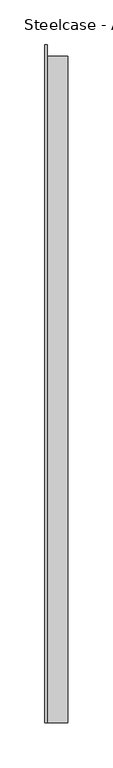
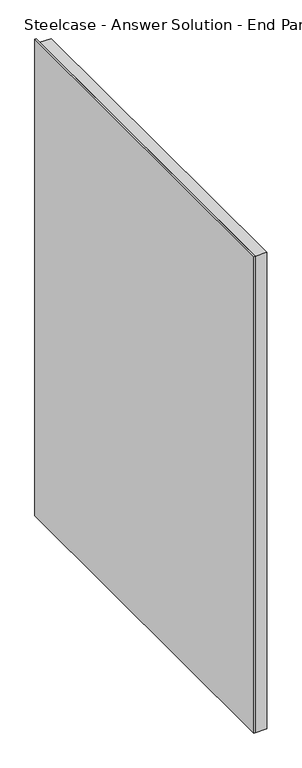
"""IFC4 building model written with IfcOpenShell, lengths in millimetres: furniture geometry, Steelcase - Answer Solution - End Panel - Standing Height : 30in - Left."""

from ifc_helpers import new_model, si_unit, origin, origin_with_axes, place, context, project, spatial, polyline, outline, extrude, source, transform, mapped, element, save


def steelcase_answer_solution_end_panel_standing_height_30in_ff82113f(model_context):
    return source(origin(), model_context, "Body", "SweptSolid", [
        extrude(outline(polyline([(2.5401938, 0.0), (2.5401938, -755.65), (0.0001938, -755.65), (0.0001938, 0.0), (2.5401938, 0.0)])), origin_with_axes(), (0.0, 0.0, 1.0), 1003.4143341),
        extrude(outline(polyline([(25.4001938, -12.7032217), (25.4001938, -755.65), (2.5401938, -755.65), (2.5401938, -12.7032217), (25.4001938, -12.7032217)])), origin_with_axes(), (0.0, 0.0, 1.0), 1003.4143341),
    ])


if __name__ == "__main__":
    model = new_model("IFC4")
    model_context = context("Model", 3, world=origin())
    ifc_project = project(units=[si_unit("LENGTHUNIT", "METRE", prefix="MILLI")], contexts=[model_context])
    site = spatial("IfcSite", under=ifc_project)
    building = spatial("IfcBuilding", under=site)
    placement = place(None, origin())
    steelcase_answer_solution_end_panel_standing_height_30in_shape = steelcase_answer_solution_end_panel_standing_height_30in_ff82113f(model_context)
    element("IfcFurniture", 1, ObjectType="Steelcase - Answer Solution - End Panel - Standing Height : 30in - Left", at=placement, inside=building, context=model_context, shape_type="MappedRepresentation", body=[
        mapped(steelcase_answer_solution_end_panel_standing_height_30in_shape, transform((0.0, 0.0, 0.0), x_axis=(1.0, 0.0, 0.0), y_axis=(0.0, 1.0, 0.0), z_axis=(0.0, 0.0, 1.0))),
    ])
    save(model, "model.ifc")
